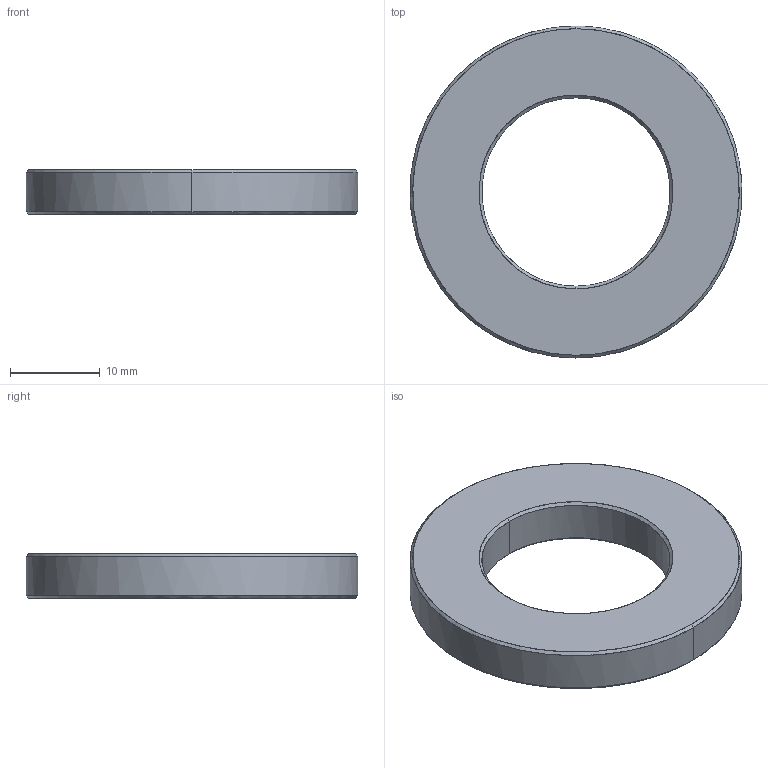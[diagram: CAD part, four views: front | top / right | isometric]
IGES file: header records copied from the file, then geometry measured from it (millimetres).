
Global section: file name: E:\UnigraphicsGraphicData\MISUMI_PRESS-PARTS\IGES\3d_wss20_00534_r00.igs; native system: NX V5.0; preprocessor: UGS NX IGES V5.0; author: MISUMI; date: 20110105.163507; units: millimetre
Bounding box: 36.95 x 37 x 5 mm (x, y, z)
Surface area: 2302.7 mm2 (no closed solid volume)
Topology: 0 solids, 0 shells, 14 faces, 96 edges, 96 vertices
Faces by surface type: bspline 14
